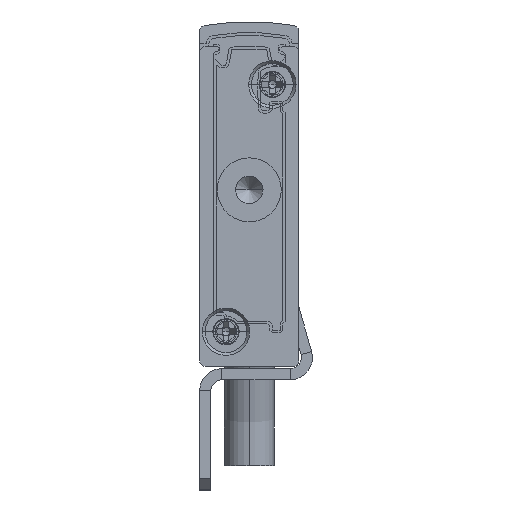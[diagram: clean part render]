
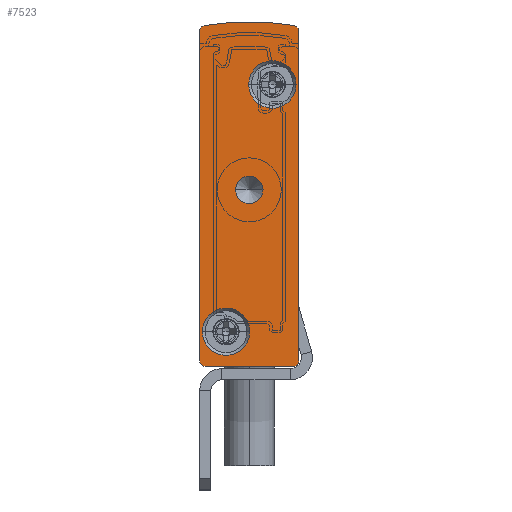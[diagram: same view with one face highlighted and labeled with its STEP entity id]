
A CAD part, front view. The second image highlights one B-rep face of the part: STEP entity #7523.
In plain terms, the highlighted planar face has unit normal (0, -1, 0).
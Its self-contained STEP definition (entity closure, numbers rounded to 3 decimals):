
#336 = DIRECTION ( 'NONE',  ( 0., -1., 0. ) ) ;
#445 = DIRECTION ( 'NONE',  ( 0., -1., 0. ) ) ;
#735 = EDGE_CURVE ( 'NONE', #20285, #13501, #11510, .T. ) ;
#903 = AXIS2_PLACEMENT_3D ( 'NONE', #9519, #336, #2194 ) ;
#929 = ORIENTED_EDGE ( 'NONE', *, *, #1061, .F. ) ;
#1061 = EDGE_CURVE ( 'NONE', #19302, #15892, #7397, .T. ) ;
#1074 = LINE ( 'NONE', #8886, #15832 ) ;
#1268 = ORIENTED_EDGE ( 'NONE', *, *, #3273, .T. ) ;
#1287 = DIRECTION ( 'NONE',  ( -1., 0., 0. ) ) ;
#1638 = CARTESIAN_POINT ( 'NONE',  ( -0.5, -2.5, 0. ) ) ;
#1758 = EDGE_CURVE ( 'NONE', #18530, #3194, #20999, .T. ) ;
#1862 = DIRECTION ( 'NONE',  ( -1., 0., 0. ) ) ;
#1871 = AXIS2_PLACEMENT_3D ( 'NONE', #4938, #23562, #17928 ) ;
#1917 = CARTESIAN_POINT ( 'NONE',  ( -9., -2.5, 30.402 ) ) ;
#2018 = DIRECTION ( 'NONE',  ( 0., 1., 0. ) ) ;
#2149 = EDGE_CURVE ( 'NONE', #3194, #18530, #14619, .T. ) ;
#2194 = DIRECTION ( 'NONE',  ( 1., 0., 0. ) ) ;
#2241 = EDGE_LOOP ( 'NONE', ( #1268, #3626 ) ) ;
#2340 = AXIS2_PLACEMENT_3D ( 'NONE', #4954, #12373, #23579 ) ;
#2590 = ORIENTED_EDGE ( 'NONE', *, *, #18249, .F. ) ;
#3194 = VERTEX_POINT ( 'NONE', #6408 ) ;
#3211 = VERTEX_POINT ( 'NONE', #12171 ) ;
#3273 = EDGE_CURVE ( 'NONE', #10746, #17690, #14799, .T. ) ;
#3300 = CIRCLE ( 'NONE', #21143, 0.5 ) ;
#3405 = EDGE_CURVE ( 'NONE', #8267, #3445, #1074, .T. ) ;
#3445 = VERTEX_POINT ( 'NONE', #1917 ) ;
#3626 = ORIENTED_EDGE ( 'NONE', *, *, #21501, .T. ) ;
#3769 = CARTESIAN_POINT ( 'NONE',  ( -0.5, -2.5, 0.5 ) ) ;
#3975 = AXIS2_PLACEMENT_3D ( 'NONE', #6726, #12404, #21654 ) ;
#4093 = ORIENTED_EDGE ( 'NONE', *, *, #2149, .F. ) ;
#4252 = DIRECTION ( 'NONE',  ( 1., 0., 0. ) ) ;
#4714 = DIRECTION ( 'NONE',  ( -1., 0., 0. ) ) ;
#4750 = CARTESIAN_POINT ( 'NONE',  ( -8.5, -2.5, 0.5 ) ) ;
#4755 = DIRECTION ( 'NONE',  ( 0., -1., 0. ) ) ;
#4938 = CARTESIAN_POINT ( 'NONE',  ( -4.5, -2.5, 16. ) ) ;
#4954 = CARTESIAN_POINT ( 'NONE',  ( -8.5, -2.5, 30.402 ) ) ;
#5581 = ORIENTED_EDGE ( 'NONE', *, *, #12193, .F. ) ;
#5964 = FACE_OUTER_BOUND ( 'NONE', #9553, .T. ) ;
#6266 = DIRECTION ( 'NONE',  ( 0., 1., 0. ) ) ;
#6408 = CARTESIAN_POINT ( 'NONE',  ( -8.75, -2.5, 3.15 ) ) ;
#6726 = CARTESIAN_POINT ( 'NONE',  ( -4.5, -2.5, 16. ) ) ;
#6816 = CARTESIAN_POINT ( 'NONE',  ( 0., -2.5, 30.402 ) ) ;
#6928 = PLANE ( 'NONE',  #2340 ) ;
#7142 = FACE_BOUND ( 'NONE', #16393, .T. ) ;
#7397 = CIRCLE ( 'NONE', #7833, 0.5 ) ;
#7523 = ADVANCED_FACE ( 'NONE', ( #23115, #7142, #5964, #8292 ), #6928, .F. ) ;
#7782 = CIRCLE ( 'NONE', #1871, 1.25 ) ;
#7833 = AXIS2_PLACEMENT_3D ( 'NONE', #3769, #2018, #1862 ) ;
#8009 = CARTESIAN_POINT ( 'NONE',  ( -8.5, -2.5, 0. ) ) ;
#8022 = VECTOR ( 'NONE', #1287, 1000. ) ;
#8267 = VERTEX_POINT ( 'NONE', #12660 ) ;
#8292 = FACE_BOUND ( 'NONE', #2241, .T. ) ;
#8402 = CARTESIAN_POINT ( 'NONE',  ( -0.5, -2.5, 30.402 ) ) ;
#8654 = AXIS2_PLACEMENT_3D ( 'NONE', #13950, #4755, #17657 ) ;
#8745 = CARTESIAN_POINT ( 'NONE',  ( 0., -2.5, 0.5 ) ) ;
#8886 = CARTESIAN_POINT ( 'NONE',  ( -9., -2.5, 30.402 ) ) ;
#9519 = CARTESIAN_POINT ( 'NONE',  ( -2.4, -2.5, 25.55 ) ) ;
#9553 = EDGE_LOOP ( 'NONE', ( #17714, #21655, #16484, #12126, #929, #5581, #16594, #23939 ) ) ;
#9694 = EDGE_LOOP ( 'NONE', ( #13612, #2590 ) ) ;
#10066 = CARTESIAN_POINT ( 'NONE',  ( -8.5, -2.5, 30.402 ) ) ;
#10604 = CARTESIAN_POINT ( 'NONE',  ( -4.45, -2.5, 3.15 ) ) ;
#10746 = VERTEX_POINT ( 'NONE', #15081 ) ;
#11338 = DIRECTION ( 'NONE',  ( 0., 0., -1. ) ) ;
#11499 = CARTESIAN_POINT ( 'NONE',  ( 0., -2.5, 30.402 ) ) ;
#11510 = CIRCLE ( 'NONE', #21433, 23.658 ) ;
#11539 = EDGE_CURVE ( 'NONE', #15892, #16824, #21674, .T. ) ;
#11578 = DIRECTION ( 'NONE',  ( 0., -1., 0. ) ) ;
#11681 = DIRECTION ( 'NONE',  ( 1., 0., 0. ) ) ;
#12059 = AXIS2_PLACEMENT_3D ( 'NONE', #4750, #23608, #17724 ) ;
#12104 = DIRECTION ( 'NONE',  ( 0., 1., 0. ) ) ;
#12126 = ORIENTED_EDGE ( 'NONE', *, *, #11539, .F. ) ;
#12171 = CARTESIAN_POINT ( 'NONE',  ( -4.55, -2.5, 25.55 ) ) ;
#12193 = EDGE_CURVE ( 'NONE', #17887, #19302, #16079, .T. ) ;
#12373 = DIRECTION ( 'NONE',  ( 0., 1., 0. ) ) ;
#12404 = DIRECTION ( 'NONE',  ( 0., 1., 0. ) ) ;
#12660 = CARTESIAN_POINT ( 'NONE',  ( -9., -2.5, 0.5 ) ) ;
#12893 = VECTOR ( 'NONE', #11338, 1000. ) ;
#12910 = VERTEX_POINT ( 'NONE', #16589 ) ;
#13501 = VERTEX_POINT ( 'NONE', #19241 ) ;
#13587 = AXIS2_PLACEMENT_3D ( 'NONE', #8402, #6266, #19383 ) ;
#13612 = ORIENTED_EDGE ( 'NONE', *, *, #19588, .F. ) ;
#13950 = CARTESIAN_POINT ( 'NONE',  ( -6.6, -2.5, 3.15 ) ) ;
#14619 = CIRCLE ( 'NONE', #18799, 2.15 ) ;
#14799 = CIRCLE ( 'NONE', #3975, 1.25 ) ;
#15081 = CARTESIAN_POINT ( 'NONE',  ( -5.75, -2.5, 16. ) ) ;
#15085 = CARTESIAN_POINT ( 'NONE',  ( -3.25, -2.5, 16. ) ) ;
#15202 = CARTESIAN_POINT ( 'NONE',  ( -6.6, -2.5, 3.15 ) ) ;
#15371 = CARTESIAN_POINT ( 'NONE',  ( -2.4, -2.5, 25.55 ) ) ;
#15603 = CIRCLE ( 'NONE', #12059, 0.5 ) ;
#15832 = VECTOR ( 'NONE', #23927, 1000. ) ;
#15892 = VERTEX_POINT ( 'NONE', #1638 ) ;
#16079 = LINE ( 'NONE', #11499, #12893 ) ;
#16393 = EDGE_LOOP ( 'NONE', ( #22319, #4093 ) ) ;
#16484 = ORIENTED_EDGE ( 'NONE', *, *, #18534, .F. ) ;
#16589 = CARTESIAN_POINT ( 'NONE',  ( -0.25, -2.5, 25.55 ) ) ;
#16594 = ORIENTED_EDGE ( 'NONE', *, *, #18761, .F. ) ;
#16824 = VERTEX_POINT ( 'NONE', #8009 ) ;
#16886 = CARTESIAN_POINT ( 'NONE',  ( -8.592, -2.5, 30.893 ) ) ;
#17064 = CIRCLE ( 'NONE', #21200, 2.15 ) ;
#17657 = DIRECTION ( 'NONE',  ( 1., 0., 0. ) ) ;
#17690 = VERTEX_POINT ( 'NONE', #15085 ) ;
#17714 = ORIENTED_EDGE ( 'NONE', *, *, #22069, .F. ) ;
#17724 = DIRECTION ( 'NONE',  ( -1., 0., 0. ) ) ;
#17887 = VERTEX_POINT ( 'NONE', #6816 ) ;
#17928 = DIRECTION ( 'NONE',  ( -1., 0., 0. ) ) ;
#18249 = EDGE_CURVE ( 'NONE', #3211, #12910, #17064, .T. ) ;
#18530 = VERTEX_POINT ( 'NONE', #10604 ) ;
#18534 = EDGE_CURVE ( 'NONE', #16824, #8267, #15603, .T. ) ;
#18761 = EDGE_CURVE ( 'NONE', #13501, #17887, #22389, .T. ) ;
#18799 = AXIS2_PLACEMENT_3D ( 'NONE', #15202, #11578, #4252 ) ;
#19241 = CARTESIAN_POINT ( 'NONE',  ( -0.408, -2.5, 30.893 ) ) ;
#19302 = VERTEX_POINT ( 'NONE', #8745 ) ;
#19383 = DIRECTION ( 'NONE',  ( -1., 0., 0. ) ) ;
#19390 = DIRECTION ( 'NONE',  ( 0., 1., 0. ) ) ;
#19588 = EDGE_CURVE ( 'NONE', #12910, #3211, #20243, .T. ) ;
#19978 = CARTESIAN_POINT ( 'NONE',  ( -8.5, -2.5, 0. ) ) ;
#20243 = CIRCLE ( 'NONE', #903, 2.15 ) ;
#20285 = VERTEX_POINT ( 'NONE', #16886 ) ;
#20999 = CIRCLE ( 'NONE', #8654, 2.15 ) ;
#21143 = AXIS2_PLACEMENT_3D ( 'NONE', #10066, #12104, #21342 ) ;
#21200 = AXIS2_PLACEMENT_3D ( 'NONE', #15371, #445, #11681 ) ;
#21342 = DIRECTION ( 'NONE',  ( -1., 0., 0. ) ) ;
#21433 = AXIS2_PLACEMENT_3D ( 'NONE', #23144, #19390, #4714 ) ;
#21501 = EDGE_CURVE ( 'NONE', #17690, #10746, #7782, .T. ) ;
#21654 = DIRECTION ( 'NONE',  ( -1., 0., 0. ) ) ;
#21655 = ORIENTED_EDGE ( 'NONE', *, *, #3405, .F. ) ;
#21674 = LINE ( 'NONE', #19978, #8022 ) ;
#22069 = EDGE_CURVE ( 'NONE', #3445, #20285, #3300, .T. ) ;
#22319 = ORIENTED_EDGE ( 'NONE', *, *, #1758, .F. ) ;
#22389 = CIRCLE ( 'NONE', #13587, 0.5 ) ;
#23115 = FACE_BOUND ( 'NONE', #9694, .T. ) ;
#23144 = CARTESIAN_POINT ( 'NONE',  ( -4.5, -2.5, 7.592 ) ) ;
#23562 = DIRECTION ( 'NONE',  ( 0., 1., 0. ) ) ;
#23579 = DIRECTION ( 'NONE',  ( -1., 0., 0. ) ) ;
#23608 = DIRECTION ( 'NONE',  ( 0., 1., 0. ) ) ;
#23927 = DIRECTION ( 'NONE',  ( 0., 0., 1. ) ) ;
#23939 = ORIENTED_EDGE ( 'NONE', *, *, #735, .F. ) ;
